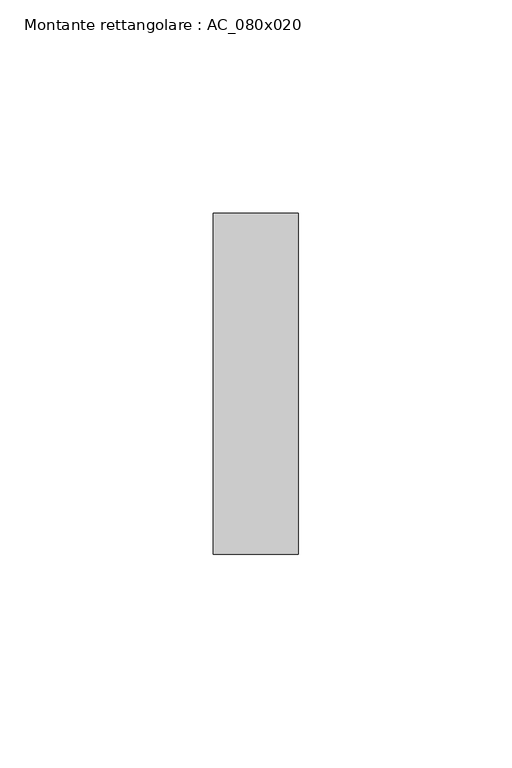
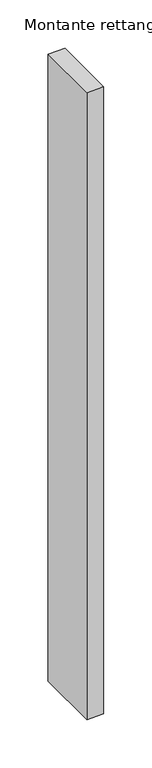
"""IFC4 building model written with IfcOpenShell, lengths in millimetres: member geometry, Montante rettangolare : AC_080x020."""

from ifc_helpers import new_model, si_unit, frame, origin, place, context, project, spatial, polyline, outline, extrude, source, transform, mapped, element, save


def montante_rettangolare_ac_080x020_8fa086c5(model_context):
    return source(origin(), model_context, "Body", "SweptSolid", [
        extrude(outline(polyline([(0.0, 40.0), (0.0, -40.0), (-20.0, -40.0), (-20.0, 40.0), (0.0, 40.0)])), frame((0.0, 0.0, -790.0), z_axis=(0.0, 0.0, 1.0), x_axis=(1.0, 0.0, 0.0)), (0.0, 0.0, 1.0), 790.0),
    ])


if __name__ == "__main__":
    model = new_model("IFC4")
    model_context = context("Model", 3, world=origin())
    ifc_project = project(units=[si_unit("LENGTHUNIT", "METRE", prefix="MILLI")], contexts=[model_context])
    site = spatial("IfcSite", under=ifc_project)
    building = spatial("IfcBuilding", under=site)
    placement = place(None, origin())
    montante_rettangolare_ac_080x020_shape = montante_rettangolare_ac_080x020_8fa086c5(model_context)
    element("IfcMember", 1, ObjectType="Montante rettangolare : AC_080x020", at=placement, inside=building, context=model_context, shape_type="MappedRepresentation", body=[
        mapped(montante_rettangolare_ac_080x020_shape, transform((0.0, 0.0, 0.0), x_axis=(1.0, 0.0, 0.0), y_axis=(0.0, 1.0, 0.0), z_axis=(0.0, 0.0, 1.0))),
    ])
    save(model, "model.ifc")
